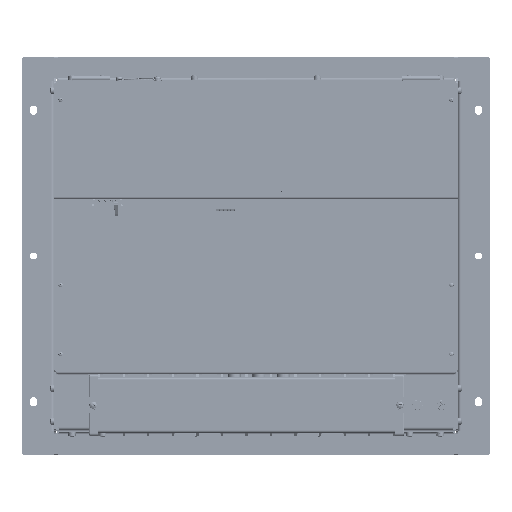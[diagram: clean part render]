
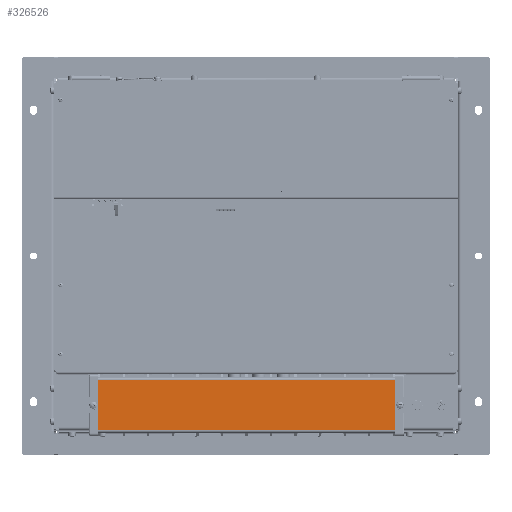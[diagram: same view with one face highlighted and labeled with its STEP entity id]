
A CAD part, top view. The second image highlights one B-rep face of the part: STEP entity #326526.
In plain terms, the highlighted planar face has unit normal (0, 0, 1).
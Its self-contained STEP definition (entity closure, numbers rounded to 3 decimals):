
#14862 = LINE ( 'NONE', #323258, #129488 ) ;
#34056 = EDGE_CURVE ( 'NONE', #549677, #258933, #14862, .T. ) ;
#57389 = DIRECTION ( 'NONE',  ( 1., 0., 0. ) ) ;
#73800 = ORIENTED_EDGE ( 'NONE', *, *, #128249, .T. ) ;
#74826 = DIRECTION ( 'NONE',  ( 0., 0., -1. ) ) ;
#87891 = CARTESIAN_POINT ( 'NONE',  ( -198.524, -230.819, 249.848 ) ) ;
#115109 = VERTEX_POINT ( 'NONE', #496159 ) ;
#117570 = ORIENTED_EDGE ( 'NONE', *, *, #549555, .F. ) ;
#128249 = EDGE_CURVE ( 'NONE', #115109, #258933, #193948, .T. ) ;
#129488 = VECTOR ( 'NONE', #467798, 1000. ) ;
#147846 = AXIS2_PLACEMENT_3D ( 'NONE', #349998, #74826, #261490 ) ;
#175102 = VECTOR ( 'NONE', #249384, 1000. ) ;
#193948 = LINE ( 'NONE', #87891, #345132 ) ;
#249384 = DIRECTION ( 'NONE',  ( 0., -1., 0. ) ) ;
#254593 = ORIENTED_EDGE ( 'NONE', *, *, #34056, .F. ) ;
#258933 = VERTEX_POINT ( 'NONE', #478220 ) ;
#261490 = DIRECTION ( 'NONE',  ( -1., 0., 0. ) ) ;
#315193 = CARTESIAN_POINT ( 'NONE',  ( 188.476, -230.819, 249.848 ) ) ;
#323258 = CARTESIAN_POINT ( 'NONE',  ( -99.524, -230.819, 249.848 ) ) ;
#326526 = ADVANCED_FACE ( 'NONE', ( #359735 ), #436475, .F. ) ;
#331834 = EDGE_CURVE ( 'NONE', #115109, #517309, #521371, .T. ) ;
#345132 = VECTOR ( 'NONE', #545793, 1000. ) ;
#349998 = CARTESIAN_POINT ( 'NONE',  ( -99.524, -230.819, 249.848 ) ) ;
#359735 = FACE_OUTER_BOUND ( 'NONE', #518110, .T. ) ;
#382717 = CARTESIAN_POINT ( 'NONE',  ( -99.524, -164.719, 249.848 ) ) ;
#405237 = LINE ( 'NONE', #476232, #175102 ) ;
#413667 = VECTOR ( 'NONE', #57389, 1000. ) ;
#436475 = PLANE ( 'NONE',  #147846 ) ;
#450105 = ORIENTED_EDGE ( 'NONE', *, *, #331834, .F. ) ;
#467798 = DIRECTION ( 'NONE',  ( -1., 0., 0. ) ) ;
#476232 = CARTESIAN_POINT ( 'NONE',  ( 188.476, -164.719, 249.848 ) ) ;
#478220 = CARTESIAN_POINT ( 'NONE',  ( -198.524, -230.819, 249.848 ) ) ;
#496159 = CARTESIAN_POINT ( 'NONE',  ( -198.524, -164.719, 249.848 ) ) ;
#517309 = VERTEX_POINT ( 'NONE', #534045 ) ;
#518110 = EDGE_LOOP ( 'NONE', ( #254593, #117570, #450105, #73800 ) ) ;
#521371 = LINE ( 'NONE', #382717, #413667 ) ;
#534045 = CARTESIAN_POINT ( 'NONE',  ( 188.476, -164.719, 249.848 ) ) ;
#545793 = DIRECTION ( 'NONE',  ( 0., -1., 0. ) ) ;
#549555 = EDGE_CURVE ( 'NONE', #517309, #549677, #405237, .T. ) ;
#549677 = VERTEX_POINT ( 'NONE', #315193 ) ;
